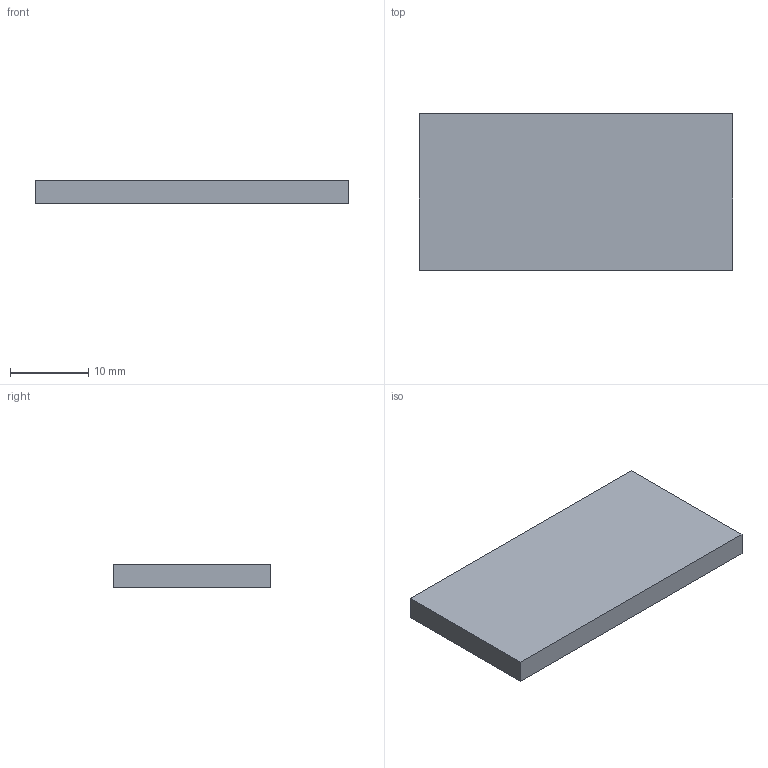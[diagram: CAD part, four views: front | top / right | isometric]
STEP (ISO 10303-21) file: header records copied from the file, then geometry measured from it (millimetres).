
FILE_DESCRIPTION((''),'2;1');
FILE_NAME('C:\Documents and Settings\AMS8\デスクトップ\2013from西村作業用\既存3D\エンドキャップiges\ECP-2040-4.stp','2013-08-06T13:44:44',('AMS8'),(''),'Autodesk Inventor 2008','Autodesk Inventor 2008','');
FILE_SCHEMA(('AUTOMOTIVE_DESIGN { 1 0 10303 214 1 1 1 1 }'));
Length unit declared in the file: millimetre
Products named in the file (1): ECP-2040-4
Bounding box: 40 x 20 x 3 mm (x, y, z)
Volume: 2400 mm3; surface area: 1960 mm2
Topology: 1 solids, 1 shells, 6 faces, 12 edges, 8 vertices
Faces by surface type: plane 6
Entity records: 182 total; most frequent: CARTESIAN_POINT 27, DIRECTION 26, ORIENTED_EDGE 24, VECTOR 12, LINE 12, EDGE_CURVE 12, VERTEX_POINT 8, AXIS2_PLACEMENT_3D 7
